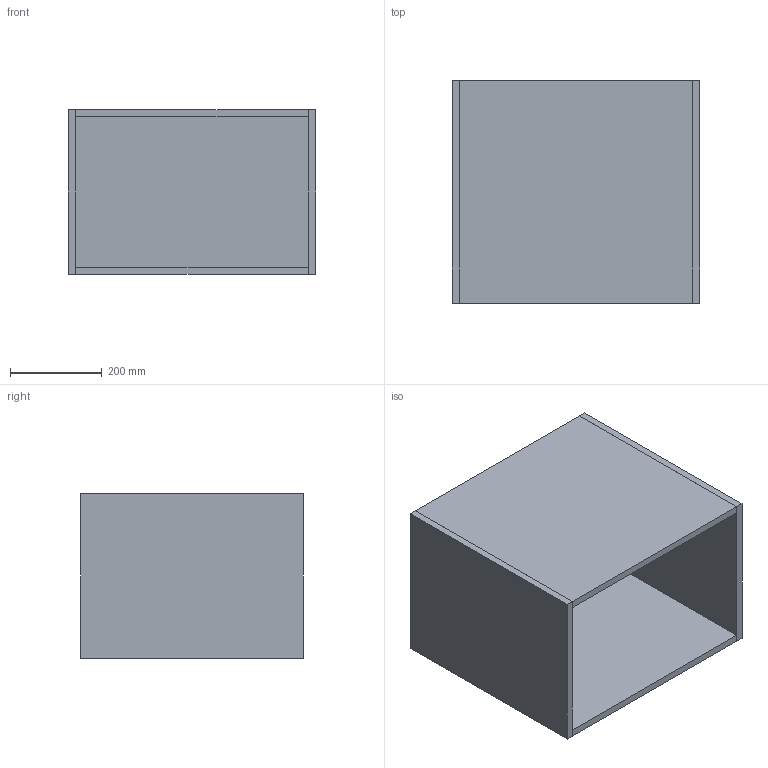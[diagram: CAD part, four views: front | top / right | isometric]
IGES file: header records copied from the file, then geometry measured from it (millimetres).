
Start section: Data from Parasolid IGES Translator 19.0.9, Copyright(c) 2006 Siemens PL M Software. All Rights Reserved.
Global section: file name: noorth-SI-H 36 D 51 W 54_8379.igs; native system: By Siemens PLM Incorporated; preprocessor: XPlus GENERIC/IGES 19.0.9; author: Noname; organization: Noname; date: 20200601.095834; units: metre
Bounding box: 540.01 x 486.06 x 360 mm (x, y, z)
Volume: 13977173.3 mm3; surface area: 2143405 mm2
Topology: 5 solids, 5 shells, 30 faces, 60 edges, 40 vertices
Faces by surface type: plane 30
